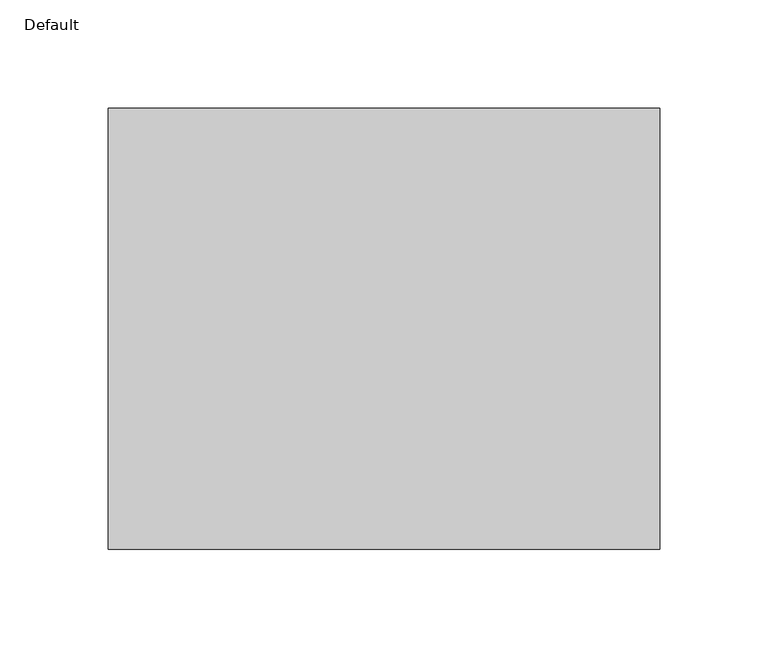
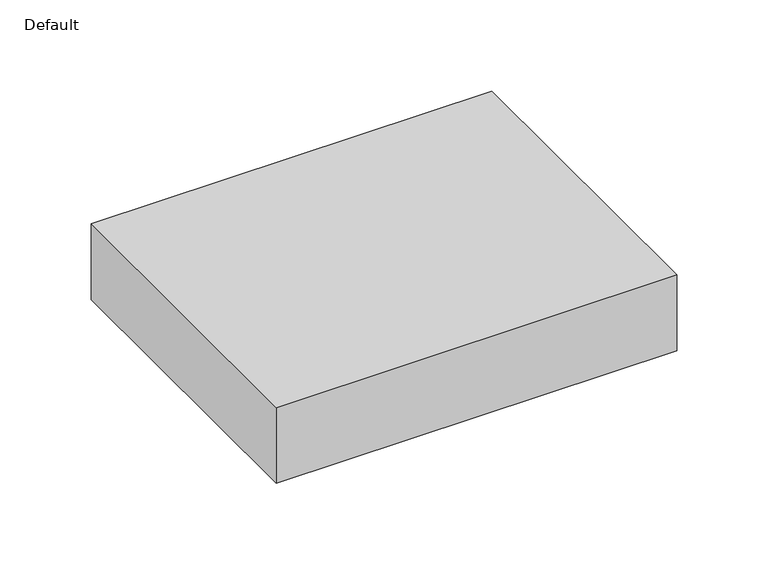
"""IFC4 building model written with IfcOpenShell, lengths in millimetres: proxy geometry, FireBIM Tutorial Annunciator : Default."""

from ifc_helpers import new_model, si_unit, origin, origin_with_axes, place, context, project, spatial, polyline, outline, extrude, source, transform, mapped, element, save


def default_4243144b(model_context):
    return source(origin(), model_context, "Body", "SweptSolid", [
        extrude(outline(polyline([(127.0, 101.6), (127.0, -101.6), (-127.0, -101.6), (-127.0, 101.6), (127.0, 101.6)])), origin_with_axes(), (0.0, 0.0, 1.0), 50.8094239),
    ])


if __name__ == "__main__":
    model = new_model("IFC4")
    model_context = context("Model", 3, world=origin())
    ifc_project = project(units=[si_unit("LENGTHUNIT", "METRE", prefix="MILLI")], contexts=[model_context])
    site = spatial("IfcSite", under=ifc_project)
    building = spatial("IfcBuilding", under=site)
    placement = place(None, origin())
    default_shape = default_4243144b(model_context)
    element("IfcBuildingElementProxy", 1, Name="FireBIM Tutorial Annunciator : Default", ObjectType="FireBIM Tutorial Annunciator : Default", at=placement, inside=building, context=model_context, shape_type="MappedRepresentation", body=[
        mapped(default_shape, transform((0.0, 0.0, 0.0), x_axis=(1.0, 0.0, 0.0), y_axis=(0.0, 1.0, 0.0), z_axis=(0.0, 0.0, 1.0))),
    ])
    save(model, "model.ifc")
